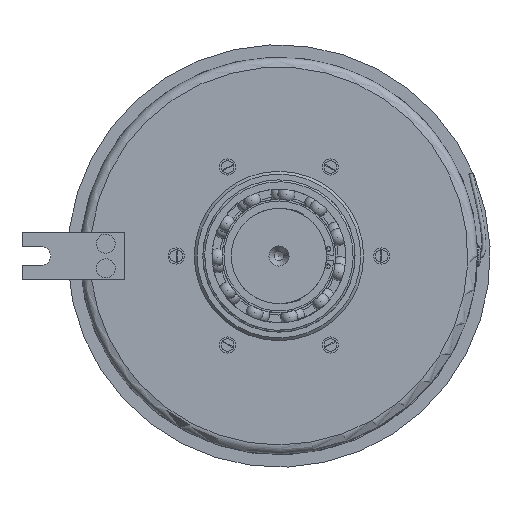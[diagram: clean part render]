
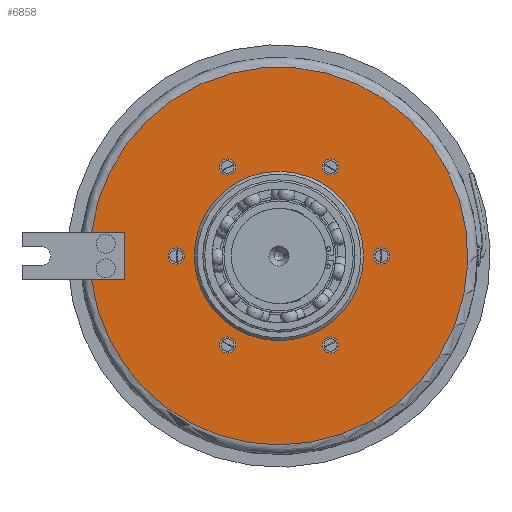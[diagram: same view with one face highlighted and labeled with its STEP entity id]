
A CAD part, left-side view. The second image highlights one B-rep face of the part: STEP entity #6858.
In plain terms, the highlighted planar face has unit normal (-1, 0, 0).
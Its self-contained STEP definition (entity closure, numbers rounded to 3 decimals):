
#558=LINE('',#10869,#817);
#575=LINE('',#10908,#834);
#579=LINE('',#10914,#838);
#817=VECTOR('',#8536,10.);
#834=VECTOR('',#8569,10.);
#838=VECTOR('',#8575,10.);
#1146=FACE_BOUND('',#1779,.T.);
#1147=FACE_BOUND('',#1780,.T.);
#1148=FACE_BOUND('',#1781,.T.);
#1149=FACE_BOUND('',#1782,.T.);
#1150=FACE_BOUND('',#1783,.T.);
#1151=FACE_BOUND('',#1784,.T.);
#1152=FACE_BOUND('',#1785,.T.);
#1340=FACE_OUTER_BOUND('',#1778,.T.);
#1778=EDGE_LOOP('',(#4896,#4897,#4898,#4899,#4900));
#1779=EDGE_LOOP('',(#4901));
#1780=EDGE_LOOP('',(#4902));
#1781=EDGE_LOOP('',(#4903));
#1782=EDGE_LOOP('',(#4904));
#1783=EDGE_LOOP('',(#4905));
#1784=EDGE_LOOP('',(#4906));
#1785=EDGE_LOOP('',(#4907));
#2312=CIRCLE('',#7393,99.25);
#2313=CIRCLE('',#7394,99.25);
#2314=CIRCLE('',#7396,44.5);
#2315=CIRCLE('',#7397,4.25);
#2316=CIRCLE('',#7398,4.25);
#2317=CIRCLE('',#7399,4.25);
#2318=CIRCLE('',#7400,4.25);
#2319=CIRCLE('',#7401,4.25);
#2320=CIRCLE('',#7402,4.25);
#2899=VERTEX_POINT('',#10866);
#2900=VERTEX_POINT('',#10868);
#2913=VERTEX_POINT('',#10906);
#2914=VERTEX_POINT('',#10907);
#2931=VERTEX_POINT('',#10987);
#2932=VERTEX_POINT('',#10992);
#2933=VERTEX_POINT('',#10994);
#2934=VERTEX_POINT('',#10996);
#2935=VERTEX_POINT('',#10998);
#2936=VERTEX_POINT('',#11000);
#2937=VERTEX_POINT('',#11002);
#2938=VERTEX_POINT('',#11004);
#3631=EDGE_CURVE('',#2900,#2899,#558,.T.);
#3650=EDGE_CURVE('',#2913,#2914,#575,.T.);
#3654=EDGE_CURVE('',#2914,#2900,#579,.T.);
#3683=EDGE_CURVE('',#2931,#2899,#2312,.T.);
#3684=EDGE_CURVE('',#2913,#2931,#2313,.T.);
#3685=EDGE_CURVE('',#2932,#2932,#2314,.T.);
#3686=EDGE_CURVE('',#2933,#2933,#2315,.T.);
#3687=EDGE_CURVE('',#2934,#2934,#2316,.T.);
#3688=EDGE_CURVE('',#2935,#2935,#2317,.T.);
#3689=EDGE_CURVE('',#2936,#2936,#2318,.T.);
#3690=EDGE_CURVE('',#2937,#2937,#2319,.T.);
#3691=EDGE_CURVE('',#2938,#2938,#2320,.T.);
#4896=ORIENTED_EDGE('',*,*,#3631,.T.);
#4897=ORIENTED_EDGE('',*,*,#3683,.F.);
#4898=ORIENTED_EDGE('',*,*,#3684,.F.);
#4899=ORIENTED_EDGE('',*,*,#3650,.T.);
#4900=ORIENTED_EDGE('',*,*,#3654,.T.);
#4901=ORIENTED_EDGE('',*,*,#3685,.F.);
#4902=ORIENTED_EDGE('',*,*,#3686,.T.);
#4903=ORIENTED_EDGE('',*,*,#3687,.T.);
#4904=ORIENTED_EDGE('',*,*,#3688,.T.);
#4905=ORIENTED_EDGE('',*,*,#3689,.T.);
#4906=ORIENTED_EDGE('',*,*,#3690,.T.);
#4907=ORIENTED_EDGE('',*,*,#3691,.T.);
#6701=PLANE('',#7395);
#6858=ADVANCED_FACE('',(#1340,#1146,#1147,#1148,#1149,#1150,#1151,#1152),
#6701,.T.);
#7393=AXIS2_PLACEMENT_3D('',#10989,#8650,#8651);
#7394=AXIS2_PLACEMENT_3D('',#10990,#8652,#8653);
#7395=AXIS2_PLACEMENT_3D('',#10991,#8654,#8655);
#7396=AXIS2_PLACEMENT_3D('',#10993,#8656,#8657);
#7397=AXIS2_PLACEMENT_3D('',#10995,#8658,#8659);
#7398=AXIS2_PLACEMENT_3D('',#10997,#8660,#8661);
#7399=AXIS2_PLACEMENT_3D('',#10999,#8662,#8663);
#7400=AXIS2_PLACEMENT_3D('',#11001,#8664,#8665);
#7401=AXIS2_PLACEMENT_3D('',#11003,#8666,#8667);
#7402=AXIS2_PLACEMENT_3D('',#11005,#8668,#8669);
#8536=DIRECTION('',(0.,1.,0.));
#8569=DIRECTION('',(0.,-1.,0.));
#8575=DIRECTION('',(0.,0.,-1.));
#8650=DIRECTION('center_axis',(1.,0.,0.));
#8651=DIRECTION('ref_axis',(0.,1.,0.));
#8652=DIRECTION('center_axis',(1.,0.,0.));
#8653=DIRECTION('ref_axis',(0.,1.,0.));
#8654=DIRECTION('center_axis',(-1.,0.,0.));
#8655=DIRECTION('ref_axis',(0.,0.,
-1.));
#8656=DIRECTION('center_axis',(-1.,0.,0.));
#8657=DIRECTION('ref_axis',(0.,-0.5,-0.866));
#8658=DIRECTION('center_axis',(1.,0.,0.));
#8659=DIRECTION('ref_axis',(0.,0.,
-1.));
#8660=DIRECTION('center_axis',(1.,0.,0.));
#8661=DIRECTION('ref_axis',(0.,0.,
-1.));
#8662=DIRECTION('center_axis',(1.,0.,0.));
#8663=DIRECTION('ref_axis',(0.,0.,
-1.));
#8664=DIRECTION('center_axis',(1.,0.,0.));
#8665=DIRECTION('ref_axis',(0.,0.,
-1.));
#8666=DIRECTION('center_axis',(1.,0.,0.));
#8667=DIRECTION('ref_axis',(0.,0.,
-1.));
#8668=DIRECTION('center_axis',(1.,0.,0.));
#8669=DIRECTION('ref_axis',(0.,0.,
-1.));
#10866=CARTESIAN_POINT('',(-17.5,98.46,-12.5));
#10868=CARTESIAN_POINT('',(-17.5,81.,-12.5));
#10869=CARTESIAN_POINT('',(-17.5,30.313,-12.5));
#10906=CARTESIAN_POINT('',(-17.5,98.46,12.5));
#10907=CARTESIAN_POINT('',(-17.5,81.,12.5));
#10908=CARTESIAN_POINT('',(-17.5,3.313,12.5));
#10914=CARTESIAN_POINT('',(-17.5,81.,-6.25));
#10987=CARTESIAN_POINT('',(-17.5,0.,-99.25));
#10989=CARTESIAN_POINT('Origin',(-17.5,0.,
0.));
#10990=CARTESIAN_POINT('Origin',(-17.5,0.,
0.));
#10991=CARTESIAN_POINT('Origin',(-17.5,-74.375,0.));
#10992=CARTESIAN_POINT('',(-17.5,22.25,38.538));
#10993=CARTESIAN_POINT('Origin',(-17.5,0.,
0.));
#10994=CARTESIAN_POINT('',(-17.5,-54.,4.25));
#10995=CARTESIAN_POINT('Origin',(-17.5,-54.,0.));
#10996=CARTESIAN_POINT('',(-17.5,-27.,51.015));
#10997=CARTESIAN_POINT('Origin',(-17.5,-27.,46.765));
#10998=CARTESIAN_POINT('',(-17.5,27.,51.015));
#10999=CARTESIAN_POINT('Origin',(-17.5,27.,46.765));
#11000=CARTESIAN_POINT('',(-17.5,54.,4.25));
#11001=CARTESIAN_POINT('Origin',(-17.5,54.,0.));
#11002=CARTESIAN_POINT('',(-17.5,27.,-42.515));
#11003=CARTESIAN_POINT('Origin',(-17.5,27.,-46.765));
#11004=CARTESIAN_POINT('',(-17.5,-27.,-42.515));
#11005=CARTESIAN_POINT('Origin',(-17.5,-27.,-46.765));
